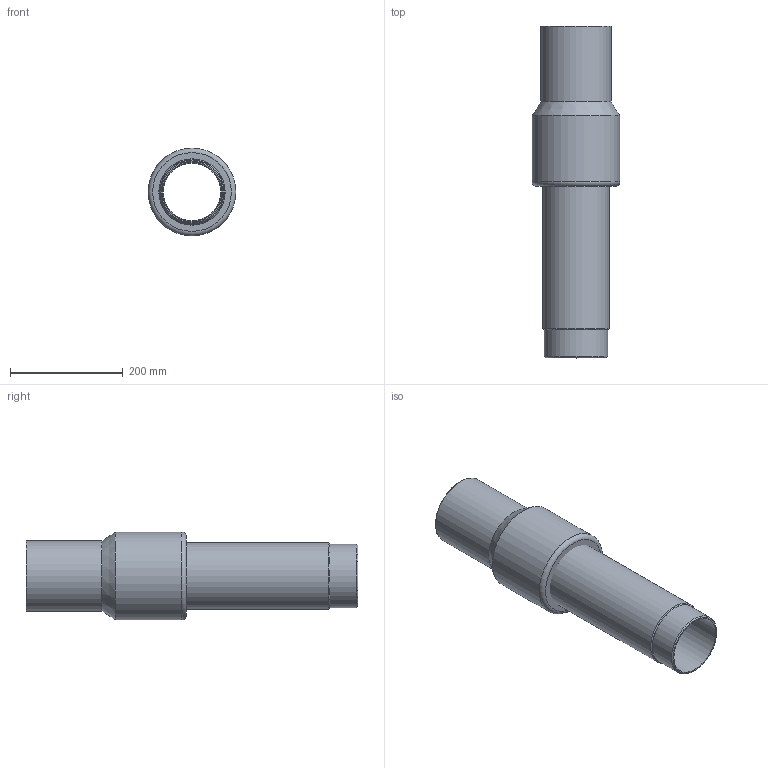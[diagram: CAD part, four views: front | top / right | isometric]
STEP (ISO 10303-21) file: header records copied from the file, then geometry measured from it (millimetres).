
FILE_DESCRIPTION(/* description */ ('Unknown'),/* implementation_level */ '2;1');
FILE_NAME(/* name */ 'RTSZRP125C',/* time_stamp */ '2022-04-27T10:15:38+02:00',/* author */ ('Unknown'),/* organization */ ('Unknown'),/* preprocessor_version */ 'ST-DEVELOPER v18.1',/* originating_system */ 'Solid Edge',/* authorisation */ 'Unknown');
FILE_SCHEMA (('AUTOMOTIVE_DESIGN {1 0 10303 214 3 1 1}'));
Length unit declared in the file: millimetre
Products named in the file (4): RTSZRP125C; Parte PE_; Partea ACCIAIO; copertura tubo
Assembly tree (3 placements, depth 2):
  RTSZRP125C
    Parte PE_
    Partea ACCIAIO
    copertura tubo
Bounding box: 156 x 590 x 156 mm (x, y, z)
Volume: 2747630.2 mm3; surface area: 813954.7 mm2
Topology: 3 solids, 3 shells, 21 faces, 38 edges, 24 vertices
Faces by surface type: cylinder 9, plane 7, cone 3, torus 2
Full cylindrical faces by diameter (mm): 102.2 x1, 105.3 x1, 113.3 x1, 114.3 x3, 117.9 x1, 125 x1, 156 x1
Entity records: 538 total; most frequent: DIRECTION 92, CARTESIAN_POINT 67, AXIS2_PLACEMENT_3D 46, ORIENTED_EDGE 42, EDGE_LOOP 42, FACE_BOUND 42, EDGE_CURVE 21, VERTEX_POINT 21
